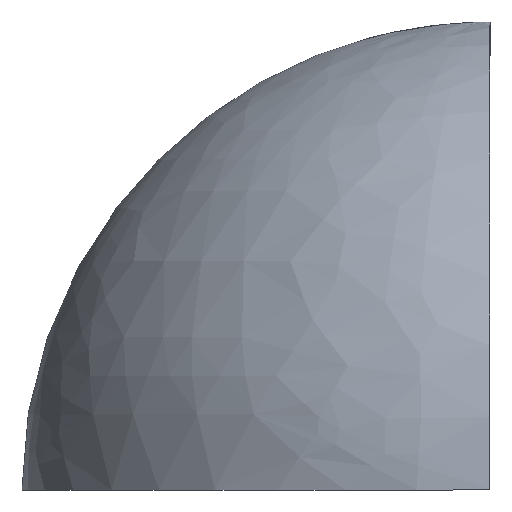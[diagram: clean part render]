
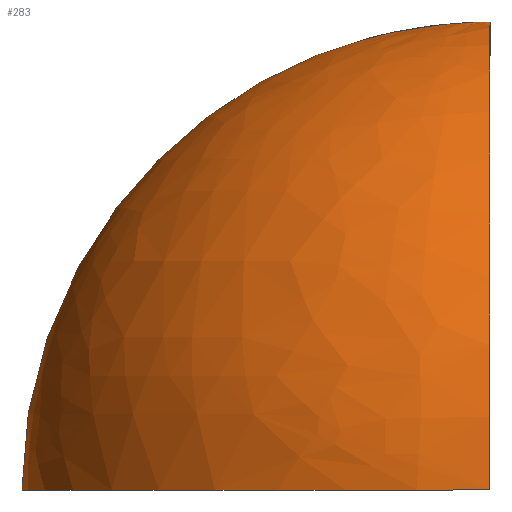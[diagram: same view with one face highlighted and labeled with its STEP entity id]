
A CAD part, left-side view. The second image highlights one B-rep face of the part: STEP entity #283.
In plain terms, the highlighted free-form (B-spline) face has degree [3, 3] with [4, 4] control points.
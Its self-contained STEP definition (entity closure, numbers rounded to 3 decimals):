
#28 = CARTESIAN_POINT ( 'NONE',  ( -10.294, 17.574, 30. ) ) ;
#41 = CARTESIAN_POINT ( 'NONE',  ( 0., 29.235, 6.803 ) ) ;
#52 = CARTESIAN_POINT ( 'NONE',  ( 0., 16.282, 25.202 ) ) ;
#61 = CARTESIAN_POINT ( 'NONE',  ( 0., 1.974, 29.939 ) ) ;
#72 = EDGE_CURVE ( 'NONE', #664, #133, #95, .T. ) ;
#95 = B_SPLINE_CURVE_WITH_KNOTS ( 'NONE', 3,
 ( #448, #856, #382, #41, #514, #117, #588, #186, #113, #322, #714, #782, #386, #859, #519, #123, #592, #52, #650, #807, #404, #813, #338, #666, #333, #731, #205, #277, #604, #530, #796, #61, #135, #599, #863, #466, #140, #401 ),
 .UNSPECIFIED., .F., .F.,
 ( 4, 2, 2, 2, 2, 2, 2, 2, 2, 2, 2, 1, 2, 2, 2, 2, 2, 1, 2, 4 ),
 ( 0., 0.006, 0.009, 0.012, 0.018, 0.019, 0.021, 0.023, 0.029, 0.031, 0.032, 0.035, 0.038, 0.04, 0.041, 0.044, 0.045, 0.046, 0.046, 0.047 ),
 .UNSPECIFIED. ) ;
#104 = CARTESIAN_POINT ( 'NONE',  ( 0., 0., 30. ) ) ;
#113 = CARTESIAN_POINT ( 'NONE',  ( 0., 26.044, 15.018 ) ) ;
#116 = ORIENTED_EDGE ( 'NONE', *, *, #304, .F. ) ;
#117 = CARTESIAN_POINT ( 'NONE',  ( 0., 28.427, 9.636 ) ) ;
#123 = CARTESIAN_POINT ( 'NONE',  ( 0., 19.838, 22.589 ) ) ;
#131 = CARTESIAN_POINT ( 'NONE',  ( 0., 0., 30. ) ) ;
#133 = VERTEX_POINT ( 'NONE', #131 ) ;
#135 = CARTESIAN_POINT ( 'NONE',  ( 0., 1.235, 29.976 ) ) ;
#137 = CARTESIAN_POINT ( 'NONE',  ( -30., 0., 0. ) ) ;
#140 = CARTESIAN_POINT ( 'NONE',  ( 0., 0.122, 30. ) ) ;
#176 = CARTESIAN_POINT ( 'NONE',  ( 0., 0., 30. ) ) ;
#179 = CARTESIAN_POINT ( 'NONE',  ( 0., 0., 30. ) ) ;
#186 = CARTESIAN_POINT ( 'NONE',  ( 0., 26.964, 13.296 ) ) ;
#197 = CIRCLE ( 'NONE', #759, 30. ) ;
#205 = CARTESIAN_POINT ( 'NONE',  ( 0., 6.846, 29.213 ) ) ;
#212 = DIRECTION ( 'NONE',  ( 0., 0., -1. ) ) ;
#250 = FACE_OUTER_BOUND ( 'NONE', #781, .T. ) ;
#270 = CARTESIAN_POINT ( 'NONE',  ( 0., 30., 0. ) ) ;
#277 = CARTESIAN_POINT ( 'NONE',  ( 0., 6.362, 29.322 ) ) ;
#283 = ADVANCED_FACE ( 'NONE', ( #250 ), #538, .T. ) ;
#289 = CARTESIAN_POINT ( 'NONE',  ( -30., 0., 0. ) ) ;
#304 = EDGE_CURVE ( 'NONE', #305, #664, #197, .T. ) ;
#305 = VERTEX_POINT ( 'NONE', #289 ) ;
#322 = CARTESIAN_POINT ( 'NONE',  ( 0., 24.685, 17.056 ) ) ;
#329 = CARTESIAN_POINT ( 'NONE',  ( -17.574, 30., 17.574 ) ) ;
#333 = CARTESIAN_POINT ( 'NONE',  ( 0., 8.276, 28.84 ) ) ;
#338 = CARTESIAN_POINT ( 'NONE',  ( 0., 11.523, 27.75 ) ) ;
#349 = DIRECTION ( 'NONE',  ( 0., -1., 0. ) ) ;
#369 = CARTESIAN_POINT ( 'NONE',  ( 0., 30., 17.574 ) ) ;
#382 = CARTESIAN_POINT ( 'NONE',  ( 0., 29.806, 3.929 ) ) ;
#386 = CARTESIAN_POINT ( 'NONE',  ( 0., 23.512, 18.64 ) ) ;
#401 = CARTESIAN_POINT ( 'NONE',  ( 0., 0., 30. ) ) ;
#404 = CARTESIAN_POINT ( 'NONE',  ( 0., 14.588, 26.219 ) ) ;
#436 = CARTESIAN_POINT ( 'NONE',  ( -17.574, 10.294, 30. ) ) ;
#448 = CARTESIAN_POINT ( 'NONE',  ( 0., 30., 0. ) ) ;
#466 = CARTESIAN_POINT ( 'NONE',  ( 0., 0.248, 29.999 ) ) ;
#501 = CARTESIAN_POINT ( 'NONE',  ( 0., 17.574, 30. ) ) ;
#514 = CARTESIAN_POINT ( 'NONE',  ( 0., 28.998, 7.753 ) ) ;
#519 = CARTESIAN_POINT ( 'NONE',  ( 0., 21.912, 20.514 ) ) ;
#522 = AXIS2_PLACEMENT_3D ( 'NONE', #749, #349, #826 ) ;
#530 = CARTESIAN_POINT ( 'NONE',  ( 0., 3.935, 29.757 ) ) ;
#538 =( BOUNDED_SURFACE ( )  B_SPLINE_SURFACE ( 3, 3, ( 
 ( #179, #176, #575, #104 ),
 ( #501, #28, #436, #842 ),
 ( #369, #329, #808, #660 ),
 ( #270, #725, #540, #137 ) ),
 .UNSPECIFIED., .F., .F., .F. ) 
 B_SPLINE_SURFACE_WITH_KNOTS ( ( 4, 4 ),
 ( 4, 4 ),
 ( 0., 1. ),
 ( 0., 1. ),
 .UNSPECIFIED. ) 
 GEOMETRIC_REPRESENTATION_ITEM ( )  RATIONAL_B_SPLINE_SURFACE ( (
 ( 1., 0.805, 0.805, 1.),
 ( 0.805, 0.648, 0.648, 0.805),
 ( 0.805, 0.648, 0.648, 0.805),
 ( 1., 0.805, 0.805, 1.) ) ) 
 REPRESENTATION_ITEM ( '' )  SURFACE ( )  );
#540 = CARTESIAN_POINT ( 'NONE',  ( -30., 17.574, 0. ) ) ;
#558 = CARTESIAN_POINT ( 'NONE',  ( 0., 30., 0. ) ) ;
#564 = ORIENTED_EDGE ( 'NONE', *, *, #72, .F. ) ;
#565 = EDGE_CURVE ( 'NONE', #133, #305, #888, .T. ) ;
#575 = CARTESIAN_POINT ( 'NONE',  ( 0., 0., 30. ) ) ;
#588 = CARTESIAN_POINT ( 'NONE',  ( 0., 28.092, 10.572 ) ) ;
#592 = CARTESIAN_POINT ( 'NONE',  ( 0., 18.329, 23.831 ) ) ;
#599 = CARTESIAN_POINT ( 'NONE',  ( 0., 0.865, 29.989 ) ) ;
#604 = CARTESIAN_POINT ( 'NONE',  ( 0., 4.909, 29.612 ) ) ;
#629 = ORIENTED_EDGE ( 'NONE', *, *, #565, .F. ) ;
#650 = CARTESIAN_POINT ( 'NONE',  ( 0., 15.863, 25.468 ) ) ;
#660 = CARTESIAN_POINT ( 'NONE',  ( -30., 0., 17.574 ) ) ;
#664 = VERTEX_POINT ( 'NONE', #558 ) ;
#666 = CARTESIAN_POINT ( 'NONE',  ( 0., 9.684, 28.411 ) ) ;
#714 = CARTESIAN_POINT ( 'NONE',  ( 0., 24.402, 17.458 ) ) ;
#725 = CARTESIAN_POINT ( 'NONE',  ( -17.574, 30., 0. ) ) ;
#731 = CARTESIAN_POINT ( 'NONE',  ( 0., 7.803, 28.972 ) ) ;
#742 = DIRECTION ( 'NONE',  ( 1., 0., 0. ) ) ;
#749 = CARTESIAN_POINT ( 'NONE',  ( 0., 0., 0. ) ) ;
#759 = AXIS2_PLACEMENT_3D ( 'NONE', #887, #212, #742 ) ;
#781 = EDGE_LOOP ( 'NONE', ( #564, #116, #629 ) ) ;
#782 = CARTESIAN_POINT ( 'NONE',  ( 0., 23.816, 18.249 ) ) ;
#796 = CARTESIAN_POINT ( 'NONE',  ( 0., 2.465, 29.903 ) ) ;
#807 = CARTESIAN_POINT ( 'NONE',  ( 0., 15.016, 25.976 ) ) ;
#808 = CARTESIAN_POINT ( 'NONE',  ( -30., 17.574, 17.574 ) ) ;
#813 = CARTESIAN_POINT ( 'NONE',  ( 0., 13.29, 26.913 ) ) ;
#826 = DIRECTION ( 'NONE',  ( 0., 0., 1. ) ) ;
#842 = CARTESIAN_POINT ( 'NONE',  ( -17.574, 0., 30. ) ) ;
#856 = CARTESIAN_POINT ( 'NONE',  ( 0., 30., 1.981 ) ) ;
#859 = CARTESIAN_POINT ( 'NONE',  ( 0., 22.572, 19.786 ) ) ;
#863 = CARTESIAN_POINT ( 'NONE',  ( 0., 0.495, 29.996 ) ) ;
#887 = CARTESIAN_POINT ( 'NONE',  ( 0., 0., 0. ) ) ;
#888 = CIRCLE ( 'NONE', #522, 30. ) ;
